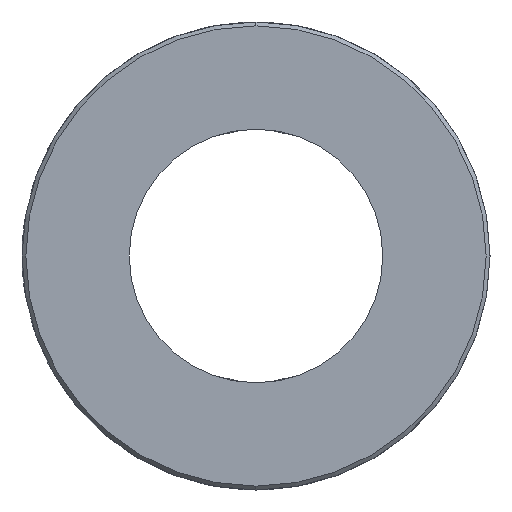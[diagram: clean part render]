
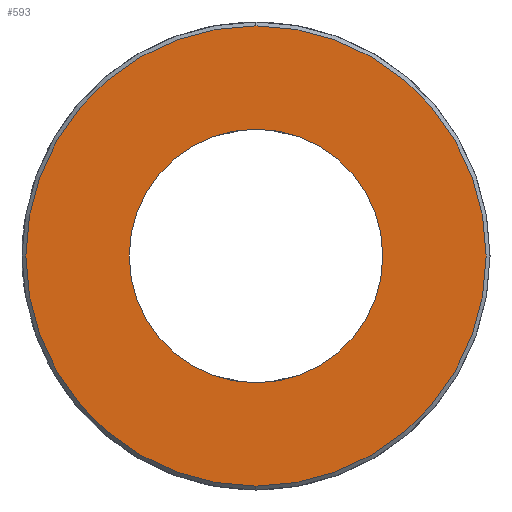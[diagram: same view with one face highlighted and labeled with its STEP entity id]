
A CAD part, left-side view. The second image highlights one B-rep face of the part: STEP entity #593.
In plain terms, the highlighted planar face has unit normal (-1, 0, 0) as drawn and (0, 0, 1) by its records, which use the part's own axes.
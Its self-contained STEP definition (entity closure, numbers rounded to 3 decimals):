
#49 = AXIS2_PLACEMENT_3D ( 'NONE', #943, #1117, #971 ) ;
#117 = DIRECTION ( 'NONE',  ( 1., 0., 0. ) ) ;
#169 = VERTEX_POINT ( 'NONE', #1009 ) ;
#188 = DIRECTION ( 'NONE',  ( 1., 0., 0. ) ) ;
#334 = DIRECTION ( 'NONE',  ( 0., 0., 1. ) ) ;
#372 = AXIS2_PLACEMENT_3D ( 'NONE', #1396, #334, #188 ) ;
#390 = DIRECTION ( 'NONE',  ( 1., 0., 0. ) ) ;
#433 = ORIENTED_EDGE ( 'NONE', *, *, #968, .F. ) ;
#441 = PLANE ( 'NONE',  #1089 ) ;
#460 = EDGE_CURVE ( 'NONE', #1369, #169, #899, .T. ) ;
#510 = CARTESIAN_POINT ( 'NONE',  ( 0., 0., 5.5 ) ) ;
#563 = AXIS2_PLACEMENT_3D ( 'NONE', #1569, #1893, #390 ) ;
#593 = ADVANCED_FACE ( 'NONE', ( #1131, #1943 ), #441, .T. ) ;
#600 = DIRECTION ( 'NONE',  ( 0., 0., 1. ) ) ;
#670 = ORIENTED_EDGE ( 'NONE', *, *, #1287, .F. ) ;
#816 = DIRECTION ( 'NONE',  ( 0., 0., 1. ) ) ;
#836 = CARTESIAN_POINT ( 'NONE',  ( -6.5, 0., 5.5 ) ) ;
#845 = EDGE_CURVE ( 'NONE', #169, #1369, #1900, .T. ) ;
#899 = CIRCLE ( 'NONE', #1702, 11.8 ) ;
#943 = CARTESIAN_POINT ( 'NONE',  ( 0., 0., 5.5 ) ) ;
#968 = EDGE_CURVE ( 'NONE', #1718, #1847, #1248, .T. ) ;
#971 = DIRECTION ( 'NONE',  ( 1., 0., 0. ) ) ;
#1009 = CARTESIAN_POINT ( 'NONE',  ( -11.8, 0., 5.5 ) ) ;
#1064 = EDGE_LOOP ( 'NONE', ( #1319, #1543 ) ) ;
#1075 = DIRECTION ( 'NONE',  ( 1., 0., 0. ) ) ;
#1089 = AXIS2_PLACEMENT_3D ( 'NONE', #1188, #600, #117 ) ;
#1117 = DIRECTION ( 'NONE',  ( 0., 0., 1. ) ) ;
#1131 = FACE_OUTER_BOUND ( 'NONE', #1064, .T. ) ;
#1166 = CARTESIAN_POINT ( 'NONE',  ( 11.8, 0., 5.5 ) ) ;
#1188 = CARTESIAN_POINT ( 'NONE',  ( 0., 0., 5.5 ) ) ;
#1216 = CIRCLE ( 'NONE', #49, 6.5 ) ;
#1248 = CIRCLE ( 'NONE', #372, 6.5 ) ;
#1287 = EDGE_CURVE ( 'NONE', #1847, #1718, #1216, .T. ) ;
#1319 = ORIENTED_EDGE ( 'NONE', *, *, #845, .T. ) ;
#1369 = VERTEX_POINT ( 'NONE', #1166 ) ;
#1396 = CARTESIAN_POINT ( 'NONE',  ( 0., 0., 5.5 ) ) ;
#1543 = ORIENTED_EDGE ( 'NONE', *, *, #460, .T. ) ;
#1569 = CARTESIAN_POINT ( 'NONE',  ( 0., 0., 5.5 ) ) ;
#1702 = AXIS2_PLACEMENT_3D ( 'NONE', #510, #816, #1075 ) ;
#1718 = VERTEX_POINT ( 'NONE', #1761 ) ;
#1761 = CARTESIAN_POINT ( 'NONE',  ( 6.5, 0., 5.5 ) ) ;
#1847 = VERTEX_POINT ( 'NONE', #836 ) ;
#1855 = EDGE_LOOP ( 'NONE', ( #670, #433 ) ) ;
#1893 = DIRECTION ( 'NONE',  ( 0., 0., 1. ) ) ;
#1900 = CIRCLE ( 'NONE', #563, 11.8 ) ;
#1943 = FACE_BOUND ( 'NONE', #1855, .T. ) ;
